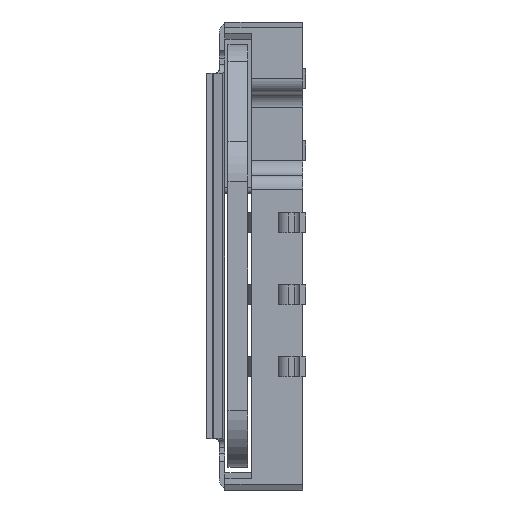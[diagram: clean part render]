
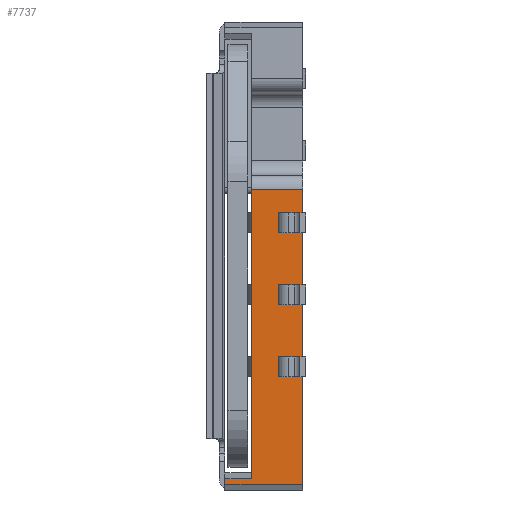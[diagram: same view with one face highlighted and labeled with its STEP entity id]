
A CAD part, left-side view. The second image highlights one B-rep face of the part: STEP entity #7737.
In plain terms, the highlighted planar face has unit normal (-1, 0, 0).
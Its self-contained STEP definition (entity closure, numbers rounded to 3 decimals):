
#500 = ORIENTED_EDGE ( 'NONE', *, *, #10481, .T. ) ;
#4179 = CARTESIAN_POINT ( 'NONE',  ( -5.9, 0.697, -4.16 ) ) ;
#4184 = CARTESIAN_POINT ( 'NONE',  ( -5.9, 2.85, -7.75 ) ) ;
#4185 = CARTESIAN_POINT ( 'NONE',  ( -5.9, 2.85, -7.95 ) ) ;
#4186 = DIRECTION ( 'NONE',  ( 0., 0., 1. ) ) ;
#4187 = VECTOR ( 'NONE', #4186, 1000. ) ;
#4188 = CARTESIAN_POINT ( 'NONE',  ( -5.9, 2.85, -7.95 ) ) ;
#4189 = LINE ( 'NONE', #4188, #4187 ) ;
#4190 = DIRECTION ( 'NONE',  ( 0., -1., 0. ) ) ;
#4191 = VECTOR ( 'NONE', #4190, 1000. ) ;
#4192 = CARTESIAN_POINT ( 'NONE',  ( -5.9, 1.9, -7.95 ) ) ;
#4193 = LINE ( 'NONE', #4192, #4191 ) ;
#4194 = DIRECTION ( 'NONE',  ( 0., -1., 0. ) ) ;
#4195 = VECTOR ( 'NONE', #4194, 1000. ) ;
#4196 = CARTESIAN_POINT ( 'NONE',  ( -5.9, 0.4, -4.16 ) ) ;
#4197 = LINE ( 'NONE', #4196, #4195 ) ;
#4198 = CARTESIAN_POINT ( 'NONE',  ( -5.9, 0.96, -4.16 ) ) ;
#4199 = DIRECTION ( 'NONE',  ( 0., -1., 0. ) ) ;
#4200 = VECTOR ( 'NONE', #4199, 1000. ) ;
#4201 = CARTESIAN_POINT ( 'NONE',  ( -5.9, 0.4, -1.62 ) ) ;
#4202 = LINE ( 'NONE', #4201, #4200 ) ;
#4203 = CARTESIAN_POINT ( 'NONE',  ( -5.9, 0.96, -1.62 ) ) ;
#4292 = DIRECTION ( 'NONE',  ( 0., 0., 1. ) ) ;
#4293 = VECTOR ( 'NONE', #4292, 1000. ) ;
#4294 = CARTESIAN_POINT ( 'NONE',  ( -5.9, 0.96, -0.92 ) ) ;
#4295 = LINE ( 'NONE', #4294, #4293 ) ;
#4301 = CARTESIAN_POINT ( 'NONE',  ( -5.9, 1.9, 2.45 ) ) ;
#4302 = DIRECTION ( 'NONE',  ( 0., 0., 1. ) ) ;
#4303 = VECTOR ( 'NONE', #4302, 1000. ) ;
#4304 = CARTESIAN_POINT ( 'NONE',  ( -5.9, 1.9, -7.95 ) ) ;
#4305 = LINE ( 'NONE', #4304, #4303 ) ;
#4306 = CARTESIAN_POINT ( 'NONE',  ( -5.9, 1.9, -7.75 ) ) ;
#4324 = CARTESIAN_POINT ( 'NONE',  ( -5.9, 0.697, -1.62 ) ) ;
#4325 = CARTESIAN_POINT ( 'NONE',  ( -5.9, 0.697, -0.92 ) ) ;
#4326 = DIRECTION ( 'NONE',  ( 0., 0., -1. ) ) ;
#4327 = VECTOR ( 'NONE', #4326, 1000. ) ;
#4328 = CARTESIAN_POINT ( 'NONE',  ( -5.9, 0.697, -0.92 ) ) ;
#4329 = DIRECTION ( 'NONE',  ( 0., 0., -1. ) ) ;
#4330 = DIRECTION ( 'NONE',  ( 1., 0., 0. ) ) ;
#4331 = CARTESIAN_POINT ( 'NONE',  ( -5.9, 1.9, -7.95 ) ) ;
#4332 = LINE ( 'NONE', #4328, #4327 ) ;
#4333 = AXIS2_PLACEMENT_3D ( 'NONE', #4331, #4330, #4329 ) ;
#4334 = PLANE ( 'NONE',  #4333 ) ;
#4335 = FACE_BOUND ( 'NONE', #9450, .T. ) ;
#4336 = FACE_BOUND ( 'NONE', #7647, .T. ) ;
#4337 = FACE_OUTER_BOUND ( 'NONE', #7723, .T. ) ;
#4338 = FACE_BOUND ( 'NONE', #7738, .T. ) ;
#4339 = DIRECTION ( 'NONE',  ( 0., -1., 0. ) ) ;
#4340 = VECTOR ( 'NONE', #4339, 1000. ) ;
#4341 = CARTESIAN_POINT ( 'NONE',  ( -5.9, 1.9, 2.45 ) ) ;
#4342 = LINE ( 'NONE', #4341, #4340 ) ;
#4343 = CARTESIAN_POINT ( 'NONE',  ( -5.9, 0.1, 2.45 ) ) ;
#4344 = CARTESIAN_POINT ( 'NONE',  ( -5.9, 0.1, -7.95 ) ) ;
#4345 = DIRECTION ( 'NONE',  ( 0., 0., 1. ) ) ;
#4346 = VECTOR ( 'NONE', #4345, 1000. ) ;
#4347 = CARTESIAN_POINT ( 'NONE',  ( -5.9, 0.1, -7.95 ) ) ;
#4348 = LINE ( 'NONE', #4347, #4346 ) ;
#4349 = DIRECTION ( 'NONE',  ( 0., -1., 0. ) ) ;
#4350 = VECTOR ( 'NONE', #4349, 1000. ) ;
#4351 = CARTESIAN_POINT ( 'NONE',  ( -5.9, 0.4, -0.92 ) ) ;
#4352 = LINE ( 'NONE', #4351, #4350 ) ;
#4353 = CARTESIAN_POINT ( 'NONE',  ( -5.9, 0.96, -0.92 ) ) ;
#6945 = VERTEX_POINT ( 'NONE', #4203 ) ;
#7390 = EDGE_CURVE ( 'NONE', #6945, #7742, #4202, .T. ) ;
#7643 = ORIENTED_EDGE ( 'NONE', *, *, #7390, .F. ) ;
#7644 = VERTEX_POINT ( 'NONE', #4198 ) ;
#7645 = EDGE_CURVE ( 'NONE', #7644, #7656, #4197, .T. ) ;
#7646 = EDGE_CURVE ( 'NONE', #7649, #7726, #4193, .T. ) ;
#7647 = EDGE_LOOP ( 'NONE', ( #7653, #500, #10482, #9452 ) ) ;
#7648 = EDGE_CURVE ( 'NONE', #7649, #7651, #4189, .T. ) ;
#7649 = VERTEX_POINT ( 'NONE', #4185 ) ;
#7650 = ORIENTED_EDGE ( 'NONE', *, *, #7646, .T. ) ;
#7651 = VERTEX_POINT ( 'NONE', #4184 ) ;
#7652 = ORIENTED_EDGE ( 'NONE', *, *, #7648, .F. ) ;
#7653 = ORIENTED_EDGE ( 'NONE', *, *, #7645, .F. ) ;
#7656 = VERTEX_POINT ( 'NONE', #4179 ) ;
#7712 = VERTEX_POINT ( 'NONE', #4306 ) ;
#7714 = EDGE_CURVE ( 'NONE', #7712, #7715, #4305, .T. ) ;
#7715 = VERTEX_POINT ( 'NONE', #4301 ) ;
#7718 = ORIENTED_EDGE ( 'NONE', *, *, #7719, .T. ) ;
#7719 = EDGE_CURVE ( 'NONE', #6945, #7720, #4295, .T. ) ;
#7720 = VERTEX_POINT ( 'NONE', #4353 ) ;
#7721 = ORIENTED_EDGE ( 'NONE', *, *, #7722, .T. ) ;
#7722 = EDGE_CURVE ( 'NONE', #7720, #7741, #4352, .T. ) ;
#7723 = EDGE_LOOP ( 'NONE', ( #7724, #7728, #10502, #10501, #7652, #7650 ) ) ;
#7724 = ORIENTED_EDGE ( 'NONE', *, *, #7725, .T. ) ;
#7725 = EDGE_CURVE ( 'NONE', #7726, #7727, #4348, .T. ) ;
#7726 = VERTEX_POINT ( 'NONE', #4344 ) ;
#7727 = VERTEX_POINT ( 'NONE', #4343 ) ;
#7728 = ORIENTED_EDGE ( 'NONE', *, *, #7729, .F. ) ;
#7729 = EDGE_CURVE ( 'NONE', #7715, #7727, #4342, .T. ) ;
#7737 = ADVANCED_FACE ( 'NONE', ( #4338, #4337, #4336, #4335 ), #4334, .F. ) ;
#7738 = EDGE_LOOP ( 'NONE', ( #7739, #7643, #7718, #7721 ) ) ;
#7739 = ORIENTED_EDGE ( 'NONE', *, *, #7740, .T. ) ;
#7740 = EDGE_CURVE ( 'NONE', #7741, #7742, #4332, .T. ) ;
#7741 = VERTEX_POINT ( 'NONE', #4325 ) ;
#7742 = VERTEX_POINT ( 'NONE', #4324 ) ;
#9448 = ORIENTED_EDGE ( 'NONE', *, *, #9449, .T. ) ;
#9449 = EDGE_CURVE ( 'NONE', #10505, #10506, #10327, .T. ) ;
#9450 = EDGE_LOOP ( 'NONE', ( #9448, #10507, #10510, #10516 ) ) ;
#9451 = VERTEX_POINT ( 'NONE', #10320 ) ;
#9452 = ORIENTED_EDGE ( 'NONE', *, *, #10270, .T. ) ;
#10270 = EDGE_CURVE ( 'NONE', #9451, #7656, #10317, .T. ) ;
#10306 = DIRECTION ( 'NONE',  ( 0., -1., 0. ) ) ;
#10307 = VECTOR ( 'NONE', #10306, 1000. ) ;
#10308 = CARTESIAN_POINT ( 'NONE',  ( -5.9, 0.4, -3.46 ) ) ;
#10309 = LINE ( 'NONE', #10308, #10307 ) ;
#10314 = DIRECTION ( 'NONE',  ( 0., 0., -1. ) ) ;
#10315 = VECTOR ( 'NONE', #10314, 1000. ) ;
#10316 = CARTESIAN_POINT ( 'NONE',  ( -5.9, 0.697, -3.46 ) ) ;
#10317 = LINE ( 'NONE', #10316, #10315 ) ;
#10320 = CARTESIAN_POINT ( 'NONE',  ( -5.9, 0.697, -3.46 ) ) ;
#10321 = DIRECTION ( 'NONE',  ( 0., 0., -1. ) ) ;
#10322 = VECTOR ( 'NONE', #10321, 1000. ) ;
#10323 = CARTESIAN_POINT ( 'NONE',  ( -5.9, 0.697, 1.62 ) ) ;
#10327 = LINE ( 'NONE', #10323, #10322 ) ;
#10337 = CARTESIAN_POINT ( 'NONE',  ( -5.9, 0.96, 1.62 ) ) ;
#10338 = DIRECTION ( 'NONE',  ( 0., -1., 0. ) ) ;
#10339 = VECTOR ( 'NONE', #10338, 1000. ) ;
#10340 = CARTESIAN_POINT ( 'NONE',  ( -5.9, 0.4, 1.62 ) ) ;
#10341 = LINE ( 'NONE', #10340, #10339 ) ;
#10342 = DIRECTION ( 'NONE',  ( 0., -1., 0. ) ) ;
#10343 = VECTOR ( 'NONE', #10342, 1000. ) ;
#10344 = CARTESIAN_POINT ( 'NONE',  ( -5.9, 22.665, -7.75 ) ) ;
#10345 = LINE ( 'NONE', #10344, #10343 ) ;
#10346 = CARTESIAN_POINT ( 'NONE',  ( -5.9, 0.697, 0.92 ) ) ;
#10347 = CARTESIAN_POINT ( 'NONE',  ( -5.9, 0.697, 1.62 ) ) ;
#10348 = DIRECTION ( 'NONE',  ( 0., -1., 0. ) ) ;
#10349 = VECTOR ( 'NONE', #10348, 1000. ) ;
#10350 = CARTESIAN_POINT ( 'NONE',  ( -5.9, 0.4, 0.92 ) ) ;
#10351 = LINE ( 'NONE', #10350, #10349 ) ;
#10352 = CARTESIAN_POINT ( 'NONE',  ( -5.9, 0.96, 0.92 ) ) ;
#10364 = CARTESIAN_POINT ( 'NONE',  ( -5.9, 0.96, -3.46 ) ) ;
#10365 = DIRECTION ( 'NONE',  ( 0., 0., 1. ) ) ;
#10366 = VECTOR ( 'NONE', #10365, 1000. ) ;
#10367 = CARTESIAN_POINT ( 'NONE',  ( -5.9, 0.96, -3.46 ) ) ;
#10368 = LINE ( 'NONE', #10367, #10366 ) ;
#10387 = DIRECTION ( 'NONE',  ( 0., 0., 1. ) ) ;
#10388 = VECTOR ( 'NONE', #10387, 1000. ) ;
#10389 = CARTESIAN_POINT ( 'NONE',  ( -5.9, 0.96, 1.62 ) ) ;
#10390 = LINE ( 'NONE', #10389, #10388 ) ;
#10480 = EDGE_CURVE ( 'NONE', #10483, #9451, #10309, .T. ) ;
#10481 = EDGE_CURVE ( 'NONE', #7644, #10483, #10368, .T. ) ;
#10482 = ORIENTED_EDGE ( 'NONE', *, *, #10480, .T. ) ;
#10483 = VERTEX_POINT ( 'NONE', #10364 ) ;
#10501 = ORIENTED_EDGE ( 'NONE', *, *, #10508, .F. ) ;
#10502 = ORIENTED_EDGE ( 'NONE', *, *, #7714, .F. ) ;
#10503 = VERTEX_POINT ( 'NONE', #10352 ) ;
#10504 = EDGE_CURVE ( 'NONE', #10503, #10506, #10351, .T. ) ;
#10505 = VERTEX_POINT ( 'NONE', #10347 ) ;
#10506 = VERTEX_POINT ( 'NONE', #10346 ) ;
#10507 = ORIENTED_EDGE ( 'NONE', *, *, #10504, .F. ) ;
#10508 = EDGE_CURVE ( 'NONE', #7651, #7712, #10345, .T. ) ;
#10509 = EDGE_CURVE ( 'NONE', #10512, #10505, #10341, .T. ) ;
#10510 = ORIENTED_EDGE ( 'NONE', *, *, #10515, .T. ) ;
#10512 = VERTEX_POINT ( 'NONE', #10337 ) ;
#10515 = EDGE_CURVE ( 'NONE', #10503, #10512, #10390, .T. ) ;
#10516 = ORIENTED_EDGE ( 'NONE', *, *, #10509, .T. ) ;
